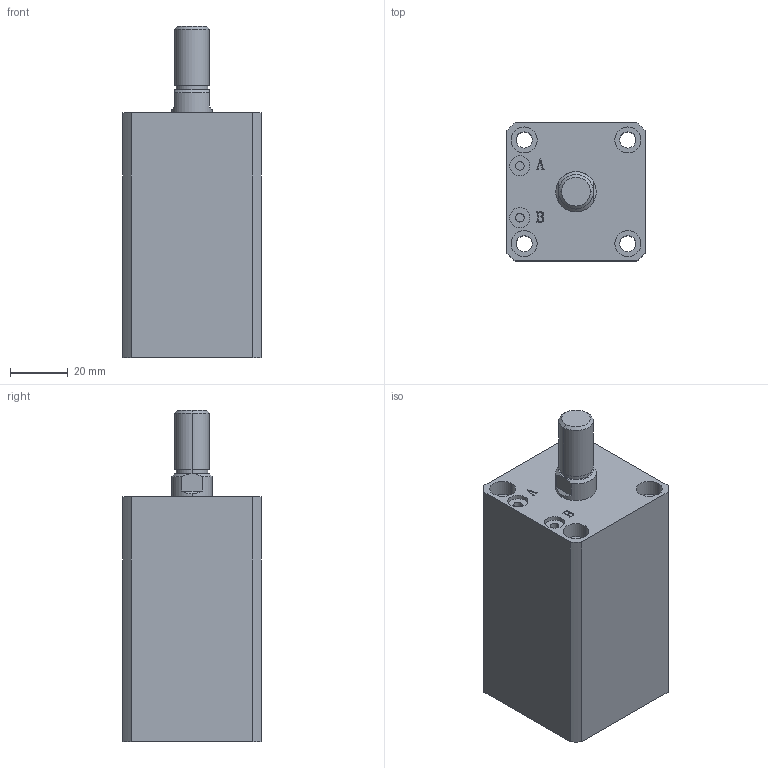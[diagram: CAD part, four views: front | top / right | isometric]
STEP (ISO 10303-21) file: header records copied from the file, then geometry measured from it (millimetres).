
FILE_DESCRIPTION (( 'STEP AP203' ), '1' );
FILE_NAME ('HTB-SDMA25-40W.STEP', '2019-10-07T10:53:39', ( '微软用户' ), ( '微软中国' ), 'SwSTEP 2.0', 'SolidWorks 2012', '' );
FILE_SCHEMA (( 'CONFIG_CONTROL_DESIGN' ));
Length unit declared in the file: millimetre
Products named in the file (3): HTB-SDMA25-40W; HTB-SDMA25-40W活塞杆; HTB-SDMA25-40掛极
Assembly tree (2 placements, depth 2):
  HTB-SDMA25-40W
    HTB-SDMA25-40掛极
    HTB-SDMA25-40W活塞杆
Bounding box: 48 x 48 x 115 mm (x, y, z)
Volume: 174272.6 mm3; surface area: 38885.2 mm2
Topology: 2 solids, 2 shells, 141 faces, 335 edges, 220 vertices
Faces by surface type: plane 67, cylinder 48, bspline 16, torus 6, cone 4
Entity records: 5178 total; most frequent: CARTESIAN_POINT 1609, ORIENTED_EDGE 670, DIRECTION 667, EDGE_CURVE 335, AXIS2_PLACEMENT_3D 242, VERTEX_POINT 220, LINE 183, VECTOR 183
